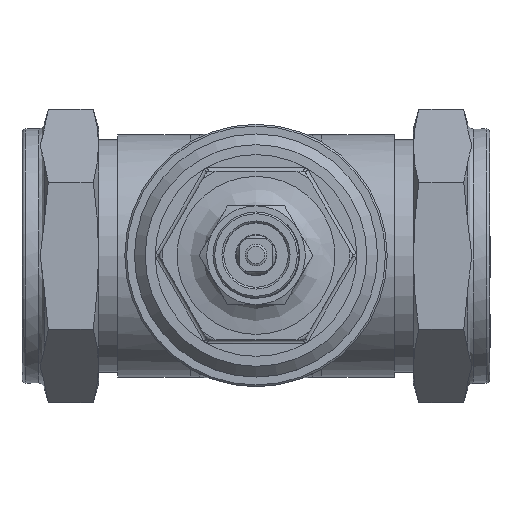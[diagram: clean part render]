
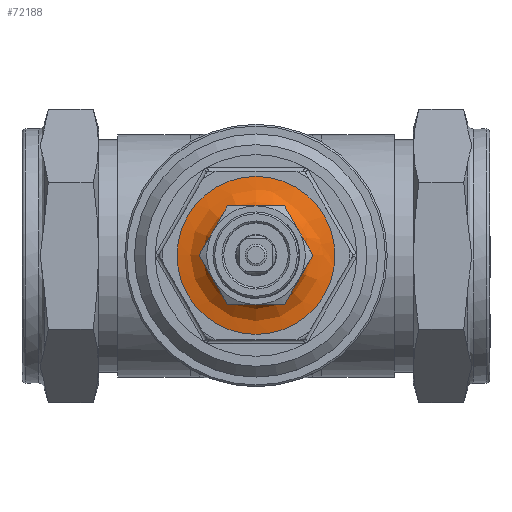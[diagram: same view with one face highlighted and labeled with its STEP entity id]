
A CAD part, top view. The second image highlights one B-rep face of the part: STEP entity #72188.
In plain terms, the highlighted free-form (B-spline) face has degree [2, 2] with [5, 9] control points.
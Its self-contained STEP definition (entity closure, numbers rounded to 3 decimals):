
#71913=CARTESIAN_POINT('',(73.532,0.,95.));
#71914=VERTEX_POINT('',#71913);
#71915=CARTESIAN_POINT('',(51.5,0.,95.));
#71916=DIRECTION('',(0.,0.,-1.0));
#71917=DIRECTION('',(1.0,0.,0.));
#71918=AXIS2_PLACEMENT_3D('',#71915,#71916,#71917);
#71919=CIRCLE('',#71918,22.032);
#71920=EDGE_CURVE('',#71914,#71914,#71919,.T.);
#72117=CARTESIAN_POINT('',(63.5,0.,104.998));
#72118=VERTEX_POINT('',#72117);
#72119=CARTESIAN_POINT('',(51.5,0.,104.998));
#72120=DIRECTION('',(0.,0.,-1.0));
#72121=DIRECTION('',(1.0,0.,0.));
#72122=AXIS2_PLACEMENT_3D('',#72119,#72120,#72121);
#72123=CIRCLE('',#72122,12.);
#72124=EDGE_CURVE('',#72118,#72118,#72123,.T.);
#72129=CARTESIAN_POINT('',(51.5,-31.997,104.998));
#72130=CARTESIAN_POINT('',(51.5,-31.997,95.));
#72131=CARTESIAN_POINT('',(51.5,-21.998,95.));
#72132=CARTESIAN_POINT('',(51.5,-12.,95.));
#72133=CARTESIAN_POINT('',(51.5,-12.,104.998));
#72134=CARTESIAN_POINT('',(19.503,-31.997,104.998));
#72135=CARTESIAN_POINT('',(19.503,-31.997,95.));
#72136=CARTESIAN_POINT('',(29.502,-21.998,95.));
#72137=CARTESIAN_POINT('',(39.5,-12.,95.));
#72138=CARTESIAN_POINT('',(39.5,-12.,104.998));
#72139=CARTESIAN_POINT('',(19.503,0.,104.998));
#72140=CARTESIAN_POINT('',(19.503,0.,95.));
#72141=CARTESIAN_POINT('',(29.502,0.,95.));
#72142=CARTESIAN_POINT('',(39.5,0.,95.));
#72143=CARTESIAN_POINT('',(39.5,0.,104.998));
#72144=CARTESIAN_POINT('',(19.503,31.997,104.998));
#72145=CARTESIAN_POINT('',(19.503,31.997,95.));
#72146=CARTESIAN_POINT('',(29.502,21.998,95.));
#72147=CARTESIAN_POINT('',(39.5,12.,95.));
#72148=CARTESIAN_POINT('',(39.5,12.,104.998));
#72149=CARTESIAN_POINT('',(51.5,31.997,104.998));
#72150=CARTESIAN_POINT('',(51.5,31.997,95.));
#72151=CARTESIAN_POINT('',(51.5,21.998,95.));
#72152=CARTESIAN_POINT('',(51.5,12.,95.));
#72153=CARTESIAN_POINT('',(51.5,12.,104.998));
#72154=CARTESIAN_POINT('',(83.497,31.997,104.998));
#72155=CARTESIAN_POINT('',(83.497,31.997,95.));
#72156=CARTESIAN_POINT('',(73.498,21.998,95.));
#72157=CARTESIAN_POINT('',(63.5,12.,95.));
#72158=CARTESIAN_POINT('',(63.5,12.,104.998));
#72159=CARTESIAN_POINT('',(83.497,0.,104.998));
#72160=CARTESIAN_POINT('',(83.497,0.,95.));
#72161=CARTESIAN_POINT('',(73.498,0.,95.));
#72162=CARTESIAN_POINT('',(63.5,0.,95.));
#72163=CARTESIAN_POINT('',(63.5,0.,104.998));
#72164=CARTESIAN_POINT('',(83.497,-31.997,104.998));
#72165=CARTESIAN_POINT('',(83.497,-31.997,95.));
#72166=CARTESIAN_POINT('',(73.498,-21.998,95.));
#72167=CARTESIAN_POINT('',(63.5,-12.,95.));
#72168=CARTESIAN_POINT('',(63.5,-12.,104.998));
#72169=CARTESIAN_POINT('',(51.5,-31.997,104.998));
#72170=CARTESIAN_POINT('',(51.5,-31.997,95.));
#72171=CARTESIAN_POINT('',(51.5,-21.998,95.));
#72172=CARTESIAN_POINT('',(51.5,-12.,95.));
#72173=CARTESIAN_POINT('',(51.5,-12.,104.998));
#72181=(BOUNDED_SURFACE()B_SPLINE_SURFACE(2,2,((#72129,#72134,#72139,#72144,#72149,#72154,#72159,#72164,#72169),(#72130,#72135,#72140,#72145,#72150,#72155,#72160,#72165,#72170),(#72131,#72136,#72141,#72146,#72151,#72156,#72161,#72166,#72171),(#72132,#72137,#72142,#72147,#72152,#72157,#72162,#72167,#72172),(#72133,#72138,#72143,#72148,#72153,#72158,#72163,#72168,#72173)),.UNSPECIFIED.,.F.,.T.,.U.)B_SPLINE_SURFACE_WITH_KNOTS((3,2,3),(3,2,2,2,3),(0.,1.571,3.142),(0.0,1.571,3.142,4.712,6.283),.UNSPECIFIED.)GEOMETRIC_REPRESENTATION_ITEM()RATIONAL_B_SPLINE_SURFACE(((1.0,0.707,1.0,0.707,1.0,0.707,1.0,0.707,1.0),(0.707,0.5,0.707,0.5,0.707,0.5,0.707,0.5,0.707),(1.0,0.707,1.0,0.707,1.0,0.707,1.0,0.707,1.0),(0.707,0.5,0.707,0.5,0.707,0.5,0.707,0.5,0.707),(1.0,0.707,1.0,0.707,1.0,0.707,1.0,0.707,1.0)))REPRESENTATION_ITEM('')SURFACE());
#72182=ORIENTED_EDGE('',*,*,#71920,.F.);
#72183=EDGE_LOOP('',(#72182));
#72184=FACE_OUTER_BOUND('',#72183,.T.);
#72185=ORIENTED_EDGE('',*,*,#72124,.T.);
#72186=EDGE_LOOP('',(#72185));
#72187=FACE_BOUND('',#72186,.T.);
#72188=ADVANCED_FACE('',(#72184,#72187),#72181,.T.);
